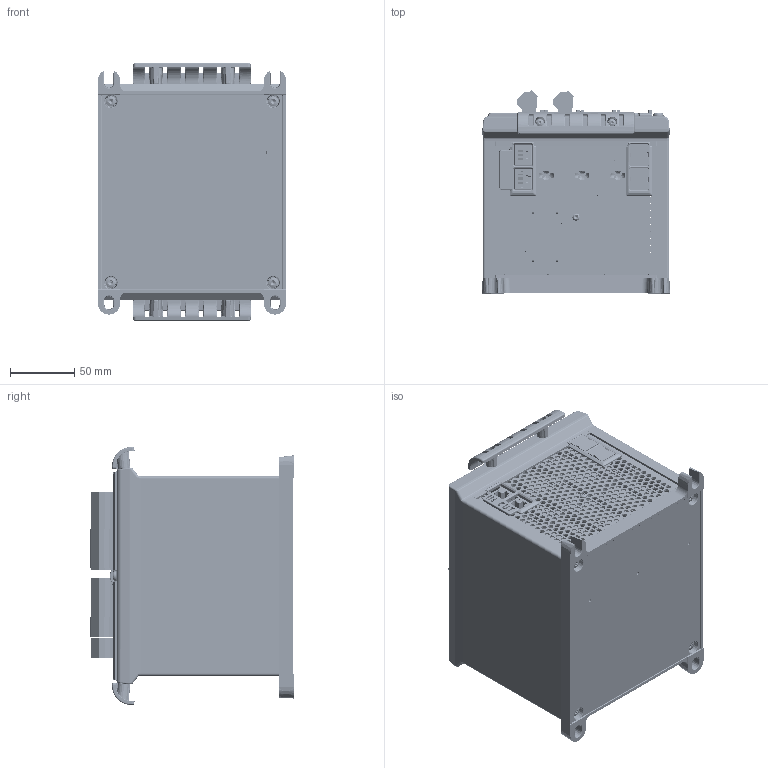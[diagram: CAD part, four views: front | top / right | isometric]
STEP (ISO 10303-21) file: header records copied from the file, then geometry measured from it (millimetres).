
FILE_DESCRIPTION(/* description */ (''),/* implementation_level */ '2;1');
FILE_NAME(/* name */ 'ML300_R4.1_PSM3.1_EIM3.1_3D_20240611.stp',/* time_stamp */ '2024-06-11T12:26:22+02:00',/* author */ ('rsj'),/* organization */ (''),/* preprocessor_version */ 'ST-DEVELOPER v19.2',/* originating_system */ 'Autodesk Inventor 2023',/* authorisation */ '');
FILE_SCHEMA (('AUTOMOTIVE_DESIGN { 1 0 10303 214 3 1 1 }'));
Products named in the file (1): 1101010050 w modules_Simplify_1
Bounding box: 146.11 x 157.55 x 199.89 mm (x, y, z)
Volume: 2436411.3 mm3; surface area: 446332.6 mm2
Topology: 15 solids, 15 shells, 22418 faces, 59539 edges, 36835 vertices
Faces by surface type: plane 10916, cylinder 5047, bspline 4638, cone 792, torus 604, sphere 421
Full cylindrical faces by diameter (mm): 0.2 x2, 0.434 x2, 0.8 x12, 1.6 x23, 2.2 x4, 2.3 x4, 2.5 x15, 2.6 x4, 3 x16, 3.05 x1, 3.2 x2, 3.3 x8, 3.571 x3, 4 x39, 4.1 x4, 4.5 x4, 5.5 x6, 5.6 x8, 8 x10, 10 x1
Entity records: 885401 total; most frequent: CARTESIAN_POINT 329828, ORIENTED_EDGE 118088, DIRECTION 101676, EDGE_CURVE 59044, VERTEX_POINT 36834, LINE 36664, VECTOR 36664, AXIS2_PLACEMENT_3D 32506
